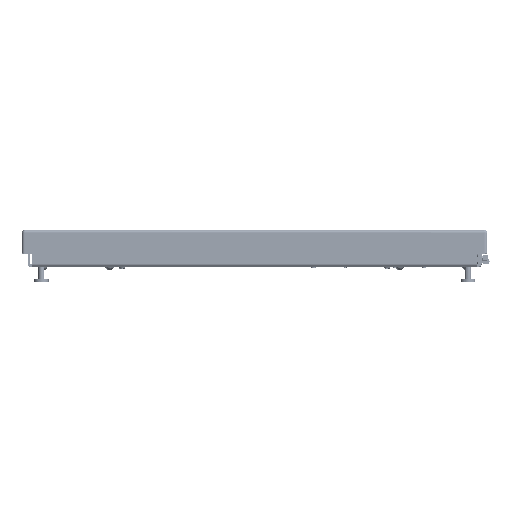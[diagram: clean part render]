
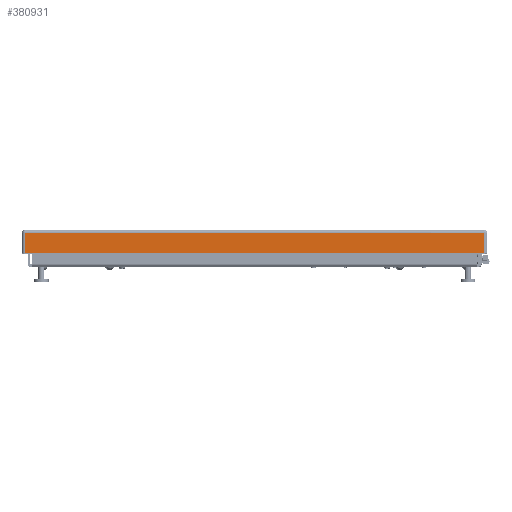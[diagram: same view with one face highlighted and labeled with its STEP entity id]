
A CAD part, top view. The second image highlights one B-rep face of the part: STEP entity #380931.
In plain terms, the highlighted planar face has unit normal (0, 0, 1) as drawn and (0, 0, -1) by its records, which use the part's own axes.
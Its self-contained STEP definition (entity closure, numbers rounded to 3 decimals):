
#16087 = ORIENTED_EDGE ( 'NONE', *, *, #364543, .F. ) ;
#91801 = DIRECTION ( 'NONE',  ( 0., 1., 0. ) ) ;
#112621 = PLANE ( 'NONE',  #272659 ) ;
#142919 = CARTESIAN_POINT ( 'NONE',  ( -296.27, 0.813, -300. ) ) ;
#145337 = EDGE_CURVE ( 'NONE', #462893, #162025, #223865, .T. ) ;
#153960 = EDGE_CURVE ( 'NONE', #351926, #162025, #726312, .T. ) ;
#162025 = VERTEX_POINT ( 'NONE', #718320 ) ;
#191590 = LINE ( 'NONE', #458587, #731915 ) ;
#192121 = EDGE_CURVE ( 'NONE', #417906, #351926, #191590, .T. ) ;
#199070 = FACE_OUTER_BOUND ( 'NONE', #651477, .T. ) ;
#223865 = LINE ( 'NONE', #324717, #361281 ) ;
#230085 = ORIENTED_EDGE ( 'NONE', *, *, #145337, .F. ) ;
#272659 = AXIS2_PLACEMENT_3D ( 'NONE', #519495, #642208, #289038 ) ;
#285021 = ORIENTED_EDGE ( 'NONE', *, *, #153960, .T. ) ;
#287345 = VECTOR ( 'NONE', #450692, 1000. ) ;
#289038 = DIRECTION ( 'NONE',  ( 0., -1., 0. ) ) ;
#296937 = VECTOR ( 'NONE', #652688, 1000. ) ;
#324717 = CARTESIAN_POINT ( 'NONE',  ( 296.27, 0., -300. ) ) ;
#351926 = VERTEX_POINT ( 'NONE', #695591 ) ;
#361281 = VECTOR ( 'NONE', #91801, 1000. ) ;
#364543 = EDGE_CURVE ( 'NONE', #417906, #462893, #572381, .T. ) ;
#380931 = ADVANCED_FACE ( 'NONE', ( #199070 ), #112621, .F. ) ;
#409764 = CARTESIAN_POINT ( 'NONE',  ( 300., 0.813, -300. ) ) ;
#417906 = VERTEX_POINT ( 'NONE', #142919 ) ;
#450692 = DIRECTION ( 'NONE',  ( 1., 0., 0. ) ) ;
#458587 = CARTESIAN_POINT ( 'NONE',  ( -296.27, 0., -300. ) ) ;
#462893 = VERTEX_POINT ( 'NONE', #500293 ) ;
#500293 = CARTESIAN_POINT ( 'NONE',  ( 296.27, 0.813, -300. ) ) ;
#519495 = CARTESIAN_POINT ( 'NONE',  ( 0., 0., -300. ) ) ;
#519598 = CARTESIAN_POINT ( 'NONE',  ( 0., 26.437, -300. ) ) ;
#572381 = LINE ( 'NONE', #409764, #296937 ) ;
#635132 = DIRECTION ( 'NONE',  ( 0., 1., 0. ) ) ;
#642208 = DIRECTION ( 'NONE',  ( 0., 0., 1. ) ) ;
#651477 = EDGE_LOOP ( 'NONE', ( #16087, #654195, #285021, #230085 ) ) ;
#652688 = DIRECTION ( 'NONE',  ( 1., 0., 0. ) ) ;
#654195 = ORIENTED_EDGE ( 'NONE', *, *, #192121, .T. ) ;
#695591 = CARTESIAN_POINT ( 'NONE',  ( -296.27, 26.437, -300. ) ) ;
#718320 = CARTESIAN_POINT ( 'NONE',  ( 296.27, 26.437, -300. ) ) ;
#726312 = LINE ( 'NONE', #519598, #287345 ) ;
#731915 = VECTOR ( 'NONE', #635132, 1000. ) ;
